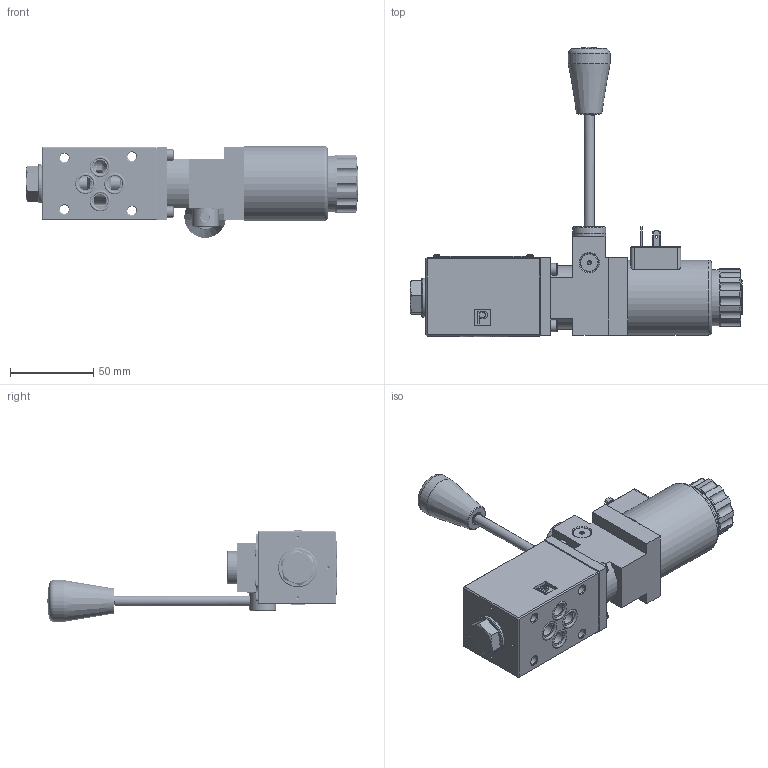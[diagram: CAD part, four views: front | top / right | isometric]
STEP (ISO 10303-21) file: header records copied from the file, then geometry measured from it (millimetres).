
FILE_DESCRIPTION(/* description */ (''),/* implementation_level */ '2;1');
FILE_NAME(/* name */ '4WEMM6-6XJ电磁手动换向阀（二位阀过渡盖在B端）.prt.stp',/* time_stamp */ '2022-03-30T19:40:43+08:00',/* author */ (''),/* organization */ (''),/* preprocessor_version */ 'ST-DEVELOPER v16.7',/* originating_system */ 'SIEMENS PLM Software NX 12.0',/* authorisation */ '');
FILE_SCHEMA (('AUTOMOTIVE_DESIGN { 1 0 10303 214 3 1 1 1 }'));
Products named in the file (1): 4WEMM6-6XJ电磁手动换向阀（二位阀过渡盖在B
端）
Bounding box: 199.2 x 173.62 x 55 mm (x, y, z)
Volume: 325624.2 mm3; surface area: 99378.9 mm2
Topology: 56 solids, 56 shells, 1568 faces, 3986 edges, 2577 vertices
Faces by surface type: plane 878, cylinder 419, cone 85, torus 68, bspline 57, extrusion 41, sphere 20
Full cylindrical faces by diameter (mm): 1.65 x3, 1.8 x4, 2 x11, 2.2 x2, 2.5 x2, 3 x1, 3.2 x4, 4 x65, 4.6 x5, 5 x1, 5.3 x4, 6 x30, 7 x4, 7.2 x1, 8 x6, 8.7 x1, 9 x1, 9.2 x2, 9.4 x4, 9.5 x2, 10.5 x1, 11 x6, 11.4 x2, 12 x7, 12.2 x8, 12.5 x1, 14 x1, 14.3 x3, 14.5 x1, 16 x1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
Entity records: 88550 total; most frequent: CARTESIAN_POINT 53906, ORIENTED_EDGE 6664, DIRECTION 6420, EDGE_CURVE 3332, VERTEX_POINT 2284, VECTOR 2188, LINE 2147, AXIS2_PLACEMENT_3D 2116
